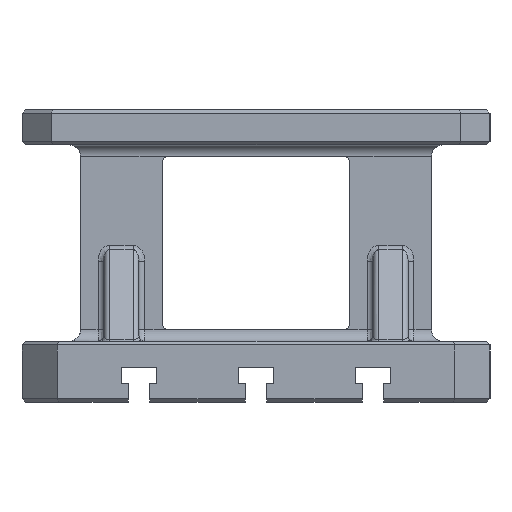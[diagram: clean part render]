
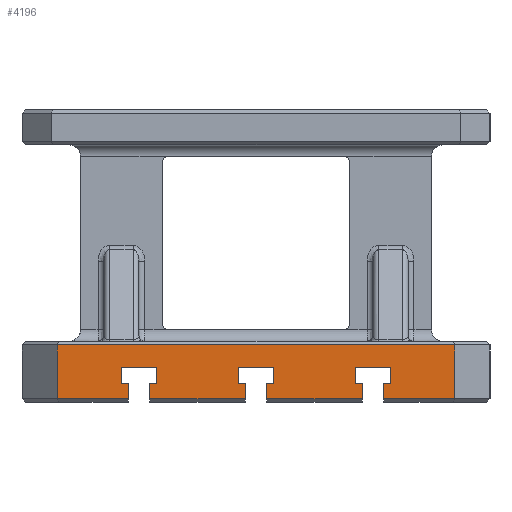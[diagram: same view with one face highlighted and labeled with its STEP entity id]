
A CAD part, left-side view. The second image highlights one B-rep face of the part: STEP entity #4196.
In plain terms, the highlighted planar face has unit normal (-1, 0, 0).
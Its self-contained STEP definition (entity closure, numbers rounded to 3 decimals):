
#141=DIRECTION('',(0.,0.,1.));
#142=VECTOR('',#141,13.);
#143=CARTESIAN_POINT('',(-400.,-109.,-23.));
#144=LINE('',#143,#142);
#145=DIRECTION('',(0.,-1.,0.));
#146=VECTOR('',#145,6.);
#147=CARTESIAN_POINT('',(-400.,-109.,-10.));
#148=LINE('',#147,#146);
#149=DIRECTION('',(0.,0.,1.));
#150=VECTOR('',#149,14.);
#151=CARTESIAN_POINT('',(-400.,-115.,-10.));
#152=LINE('',#151,#150);
#153=DIRECTION('',(0.,1.,0.));
#154=VECTOR('',#153,30.);
#155=CARTESIAN_POINT('',(-400.,-115.,4.));
#156=LINE('',#155,#154);
#157=DIRECTION('',(0.,0.,-1.));
#158=VECTOR('',#157,14.);
#159=CARTESIAN_POINT('',(-400.,-85.,4.));
#160=LINE('',#159,#158);
#161=DIRECTION('',(0.,-1.,0.));
#162=VECTOR('',#161,6.);
#163=CARTESIAN_POINT('',(-400.,-85.,-10.));
#164=LINE('',#163,#162);
#165=DIRECTION('',(0.,0.,1.));
#166=VECTOR('',#165,13.);
#167=CARTESIAN_POINT('',(-400.,-91.,-23.));
#168=LINE('',#167,#166);
#169=DIRECTION('',(0.,1.,0.));
#170=VECTOR('',#169,82.);
#171=CARTESIAN_POINT('',(-400.,-91.,-23.));
#172=LINE('',#171,#170);
#173=DIRECTION('',(0.,0.,1.));
#174=VECTOR('',#173,13.);
#175=CARTESIAN_POINT('',(-400.,-9.,-23.));
#176=LINE('',#175,#174);
#177=DIRECTION('',(0.,-1.,0.));
#178=VECTOR('',#177,6.);
#179=CARTESIAN_POINT('',(-400.,-9.,-10.));
#180=LINE('',#179,#178);
#181=DIRECTION('',(0.,0.,1.));
#182=VECTOR('',#181,14.);
#183=CARTESIAN_POINT('',(-400.,-15.,-10.));
#184=LINE('',#183,#182);
#185=DIRECTION('',(0.,1.,0.));
#186=VECTOR('',#185,30.);
#187=CARTESIAN_POINT('',(-400.,-15.,4.));
#188=LINE('',#187,#186);
#189=DIRECTION('',(0.,0.,-1.));
#190=VECTOR('',#189,14.);
#191=CARTESIAN_POINT('',(-400.,15.,4.));
#192=LINE('',#191,#190);
#193=DIRECTION('',(0.,-1.,0.));
#194=VECTOR('',#193,6.);
#195=CARTESIAN_POINT('',(-400.,15.,-10.));
#196=LINE('',#195,#194);
#197=DIRECTION('',(0.,0.,1.));
#198=VECTOR('',#197,13.);
#199=CARTESIAN_POINT('',(-400.,9.,-23.));
#200=LINE('',#199,#198);
#201=DIRECTION('',(0.,1.,0.));
#202=VECTOR('',#201,82.);
#203=CARTESIAN_POINT('',(-400.,9.,-23.));
#204=LINE('',#203,#202);
#205=DIRECTION('',(0.,0.,1.));
#206=VECTOR('',#205,13.);
#207=CARTESIAN_POINT('',(-400.,91.,-23.));
#208=LINE('',#207,#206);
#209=DIRECTION('',(0.,-1.,0.));
#210=VECTOR('',#209,6.);
#211=CARTESIAN_POINT('',(-400.,91.,-10.));
#212=LINE('',#211,#210);
#213=DIRECTION('',(0.,0.,1.));
#214=VECTOR('',#213,14.);
#215=CARTESIAN_POINT('',(-400.,85.,-10.));
#216=LINE('',#215,#214);
#217=DIRECTION('',(0.,1.,0.));
#218=VECTOR('',#217,30.);
#219=CARTESIAN_POINT('',(-400.,85.,4.));
#220=LINE('',#219,#218);
#221=DIRECTION('',(0.,0.,-1.));
#222=VECTOR('',#221,14.);
#223=CARTESIAN_POINT('',(-400.,115.,4.));
#224=LINE('',#223,#222);
#225=DIRECTION('',(0.,-1.,0.));
#226=VECTOR('',#225,6.);
#227=CARTESIAN_POINT('',(-400.,115.,-10.));
#228=LINE('',#227,#226);
#229=DIRECTION('',(0.,0.,1.));
#230=VECTOR('',#229,13.);
#231=CARTESIAN_POINT('',(-400.,109.,-23.));
#232=LINE('',#231,#230);
#233=DIRECTION('',(0.,1.,0.));
#234=VECTOR('',#233,61.);
#235=CARTESIAN_POINT('',(-400.,109.,-23.));
#236=LINE('',#235,#234);
#237=DIRECTION('',(0.,0.,-1.));
#238=VECTOR('',#237,46.);
#239=CARTESIAN_POINT('',(-400.,170.,23.));
#240=LINE('',#239,#238);
#241=DIRECTION('',(0.,-1.,0.));
#242=VECTOR('',#241,340.);
#243=CARTESIAN_POINT('',(-400.,170.,23.));
#244=LINE('',#243,#242);
#245=DIRECTION('',(0.,0.,-1.));
#246=VECTOR('',#245,46.);
#247=CARTESIAN_POINT('',(-400.,-170.,23.));
#248=LINE('',#247,#246);
#249=DIRECTION('',(0.,1.,0.));
#250=VECTOR('',#249,61.);
#251=CARTESIAN_POINT('',(-400.,-170.,-23.));
#252=LINE('',#251,#250);
#3139=CARTESIAN_POINT('',(-400.,170.,-23.));
#3141=VERTEX_POINT('',#3139);
#3169=CARTESIAN_POINT('',(-400.,-170.,-23.));
#3170=VERTEX_POINT('',#3169);
#3205=CARTESIAN_POINT('',(-400.,170.,23.));
#3206=VERTEX_POINT('',#3205);
#3215=CARTESIAN_POINT('',(-400.,-170.,23.));
#3216=VERTEX_POINT('',#3215);
#3801=CARTESIAN_POINT('',(-400.,-9.,-23.));
#3802=CARTESIAN_POINT('',(-400.,-9.,-10.));
#3803=VERTEX_POINT('',#3801);
#3804=VERTEX_POINT('',#3802);
#3805=CARTESIAN_POINT('',(-400.,-15.,-10.));
#3806=VERTEX_POINT('',#3805);
#3807=CARTESIAN_POINT('',(-400.,-15.,4.));
#3808=VERTEX_POINT('',#3807);
#3809=CARTESIAN_POINT('',(-400.,15.,4.));
#3810=VERTEX_POINT('',#3809);
#3811=CARTESIAN_POINT('',(-400.,15.,-10.));
#3812=VERTEX_POINT('',#3811);
#3813=CARTESIAN_POINT('',(-400.,9.,-10.));
#3814=VERTEX_POINT('',#3813);
#3815=CARTESIAN_POINT('',(-400.,9.,-23.));
#3816=VERTEX_POINT('',#3815);
#3841=CARTESIAN_POINT('',(-400.,91.,-23.));
#3842=CARTESIAN_POINT('',(-400.,91.,-10.));
#3843=VERTEX_POINT('',#3841);
#3844=VERTEX_POINT('',#3842);
#3845=CARTESIAN_POINT('',(-400.,85.,-10.));
#3846=VERTEX_POINT('',#3845);
#3847=CARTESIAN_POINT('',(-400.,85.,4.));
#3848=VERTEX_POINT('',#3847);
#3849=CARTESIAN_POINT('',(-400.,115.,4.));
#3850=VERTEX_POINT('',#3849);
#3851=CARTESIAN_POINT('',(-400.,115.,-10.));
#3852=VERTEX_POINT('',#3851);
#3853=CARTESIAN_POINT('',(-400.,109.,-10.));
#3854=VERTEX_POINT('',#3853);
#3855=CARTESIAN_POINT('',(-400.,109.,-23.));
#3856=VERTEX_POINT('',#3855);
#3881=CARTESIAN_POINT('',(-400.,-109.,-23.));
#3882=CARTESIAN_POINT('',(-400.,-109.,-10.));
#3883=VERTEX_POINT('',#3881);
#3884=VERTEX_POINT('',#3882);
#3885=CARTESIAN_POINT('',(-400.,-115.,-10.));
#3886=VERTEX_POINT('',#3885);
#3887=CARTESIAN_POINT('',(-400.,-115.,4.));
#3888=VERTEX_POINT('',#3887);
#3889=CARTESIAN_POINT('',(-400.,-85.,4.));
#3890=VERTEX_POINT('',#3889);
#3891=CARTESIAN_POINT('',(-400.,-85.,-10.));
#3892=VERTEX_POINT('',#3891);
#3893=CARTESIAN_POINT('',(-400.,-91.,-10.));
#3894=VERTEX_POINT('',#3893);
#3895=CARTESIAN_POINT('',(-400.,-91.,-23.));
#3896=VERTEX_POINT('',#3895);
#4139=CARTESIAN_POINT('',(-400.,200.,-26.));
#4140=DIRECTION('',(-1.,0.,0.));
#4141=DIRECTION('',(0.,-1.,0.));
#4142=AXIS2_PLACEMENT_3D('',#4139,#4140,#4141);
#4143=PLANE('',#4142);
#4145=ORIENTED_EDGE('',*,*,#4144,.T.);
#4147=ORIENTED_EDGE('',*,*,#4146,.T.);
#4149=ORIENTED_EDGE('',*,*,#4148,.T.);
#4151=ORIENTED_EDGE('',*,*,#4150,.T.);
#4153=ORIENTED_EDGE('',*,*,#4152,.T.);
#4155=ORIENTED_EDGE('',*,*,#4154,.T.);
#4157=ORIENTED_EDGE('',*,*,#4156,.F.);
#4158=ORIENTED_EDGE('',*,*,#4134,.T.);
#4160=ORIENTED_EDGE('',*,*,#4159,.T.);
#4162=ORIENTED_EDGE('',*,*,#4161,.T.);
#4164=ORIENTED_EDGE('',*,*,#4163,.T.);
#4166=ORIENTED_EDGE('',*,*,#4165,.T.);
#4168=ORIENTED_EDGE('',*,*,#4167,.T.);
#4170=ORIENTED_EDGE('',*,*,#4169,.T.);
#4171=ORIENTED_EDGE('',*,*,#4071,.F.);
#4172=ORIENTED_EDGE('',*,*,#4087,.T.);
#4173=ORIENTED_EDGE('',*,*,#3997,.T.);
#4175=ORIENTED_EDGE('',*,*,#4174,.T.);
#4177=ORIENTED_EDGE('',*,*,#4176,.T.);
#4179=ORIENTED_EDGE('',*,*,#4178,.T.);
#4181=ORIENTED_EDGE('',*,*,#4180,.T.);
#4183=ORIENTED_EDGE('',*,*,#4182,.T.);
#4185=ORIENTED_EDGE('',*,*,#4184,.F.);
#4186=ORIENTED_EDGE('',*,*,#4104,.T.);
#4188=ORIENTED_EDGE('',*,*,#4187,.F.);
#4190=ORIENTED_EDGE('',*,*,#4189,.T.);
#4192=ORIENTED_EDGE('',*,*,#4191,.T.);
#4193=ORIENTED_EDGE('',*,*,#4116,.T.);
#4194=EDGE_LOOP('',(#4145,#4147,#4149,#4151,#4153,#4155,#4157,#4158,#4160,#4162,
#4164,#4166,#4168,#4170,#4171,#4172,#4173,#4175,#4177,#4179,#4181,#4183,#4185,
#4186,#4188,#4190,#4192,#4193));
#4195=FACE_OUTER_BOUND('',#4194,.F.);
#4196=ADVANCED_FACE('',(#4195),#4143,.T.);
#3997=EDGE_CURVE('',#3843,#3844,#208,.T.);
#4071=EDGE_CURVE('',#3816,#3814,#200,.T.);
#4087=EDGE_CURVE('',#3816,#3843,#204,.T.);
#4104=EDGE_CURVE('',#3856,#3141,#236,.T.);
#4116=EDGE_CURVE('',#3170,#3883,#252,.T.);
#4134=EDGE_CURVE('',#3896,#3803,#172,.T.);
#4144=EDGE_CURVE('',#3883,#3884,#144,.T.);
#4146=EDGE_CURVE('',#3884,#3886,#148,.T.);
#4148=EDGE_CURVE('',#3886,#3888,#152,.T.);
#4150=EDGE_CURVE('',#3888,#3890,#156,.T.);
#4152=EDGE_CURVE('',#3890,#3892,#160,.T.);
#4154=EDGE_CURVE('',#3892,#3894,#164,.T.);
#4156=EDGE_CURVE('',#3896,#3894,#168,.T.);
#4159=EDGE_CURVE('',#3803,#3804,#176,.T.);
#4161=EDGE_CURVE('',#3804,#3806,#180,.T.);
#4163=EDGE_CURVE('',#3806,#3808,#184,.T.);
#4165=EDGE_CURVE('',#3808,#3810,#188,.T.);
#4167=EDGE_CURVE('',#3810,#3812,#192,.T.);
#4169=EDGE_CURVE('',#3812,#3814,#196,.T.);
#4174=EDGE_CURVE('',#3844,#3846,#212,.T.);
#4176=EDGE_CURVE('',#3846,#3848,#216,.T.);
#4178=EDGE_CURVE('',#3848,#3850,#220,.T.);
#4180=EDGE_CURVE('',#3850,#3852,#224,.T.);
#4182=EDGE_CURVE('',#3852,#3854,#228,.T.);
#4184=EDGE_CURVE('',#3856,#3854,#232,.T.);
#4187=EDGE_CURVE('',#3206,#3141,#240,.T.);
#4189=EDGE_CURVE('',#3206,#3216,#244,.T.);
#4191=EDGE_CURVE('',#3216,#3170,#248,.T.);
